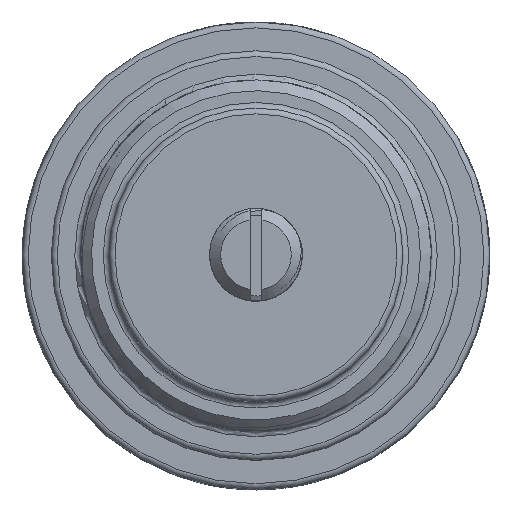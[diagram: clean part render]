
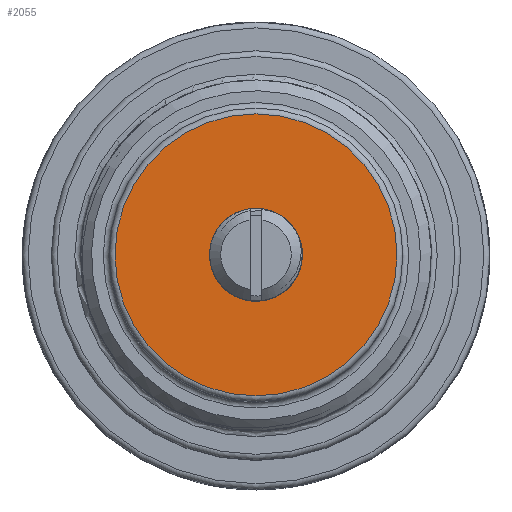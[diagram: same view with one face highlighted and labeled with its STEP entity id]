
A CAD part, top view. The second image highlights one B-rep face of the part: STEP entity #2055.
In plain terms, the highlighted planar face has unit normal (0, 0, 1).
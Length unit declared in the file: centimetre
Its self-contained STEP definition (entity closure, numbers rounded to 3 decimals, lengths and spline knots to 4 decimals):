
#40=FACE_BOUND('',#454,.T.);
#124=PLANE('',#2237);
#295=FACE_OUTER_BOUND('',#453,.T.);
#453=EDGE_LOOP('',(#1875));
#454=EDGE_LOOP('',(#1876,#1877,#1878,#1879));
#488=B_SPLINE_CURVE_WITH_KNOTS('',3,(#3598,#3599,#3600,#3601,#3602,#3603,
#3604,#3605,#3606,#3607),.UNSPECIFIED.,.F.,.F.,(4,3,3,4),(-0.7619,
-0.7346,-0.3808,0.),.UNSPECIFIED.);
#492=B_SPLINE_CURVE_WITH_KNOTS('',3,(#3879,#3880,#3881,#3882,#3883,#3884,
#3885,#3886,#3887,#3888),.UNSPECIFIED.,.F.,.F.,(4,3,3,4),(-0.7594,
-0.7278,-0.3507,0.),.UNSPECIFIED.);
#652=CIRCLE('',#2098,0.3372);
#653=CIRCLE('',#2100,0.3942);
#718=CIRCLE('',#2238,1.2);
#831=VERTEX_POINT('',#3481);
#832=VERTEX_POINT('',#3597);
#834=VERTEX_POINT('',#3652);
#836=VERTEX_POINT('',#3878);
#1000=VERTEX_POINT('',#20144);
#1049=EDGE_CURVE('',#832,#831,#488,.T.);
#1052=EDGE_CURVE('',#834,#832,#652,.T.);
#1055=EDGE_CURVE('',#836,#834,#492,.T.);
#1057=EDGE_CURVE('',#831,#836,#653,.F.);
#1299=EDGE_CURVE('',#1000,#1000,#718,.T.);
#1875=ORIENTED_EDGE('',*,*,#1299,.F.);
#1876=ORIENTED_EDGE('',*,*,#1057,.T.);
#1877=ORIENTED_EDGE('',*,*,#1055,.T.);
#1878=ORIENTED_EDGE('',*,*,#1052,.T.);
#1879=ORIENTED_EDGE('',*,*,#1049,.T.);
#2055=ADVANCED_FACE('',(#295,#40),#124,.F.);
#2098=AXIS2_PLACEMENT_3D('',#3653,#2328,#2329);
#2100=AXIS2_PLACEMENT_3D('',#4005,#2332,#2333);
#2237=AXIS2_PLACEMENT_3D('',#20143,#2632,#2633);
#2238=AXIS2_PLACEMENT_3D('',#20145,#2634,#2635);
#2328=DIRECTION('center_axis',(0.,0.,-1.));
#2329=DIRECTION('ref_axis',(-1.,0.,0.));
#2332=DIRECTION('center_axis',(0.,0.,1.));
#2333=DIRECTION('ref_axis',(-1.,0.,0.));
#2632=DIRECTION('center_axis',(0.,0.,-1.));
#2633=DIRECTION('ref_axis',(-1.,0.,0.));
#2634=DIRECTION('center_axis',(0.,0.,-1.));
#2635=DIRECTION('ref_axis',(-1.,0.,0.));
#3481=CARTESIAN_POINT('',(-0.2787,-0.2787,6.35));
#3597=CARTESIAN_POINT('',(0.3233,-0.0956,6.35));
#3598=CARTESIAN_POINT('Ctrl Pts',(0.3238,-0.0959,
6.35));
#3599=CARTESIAN_POINT('Ctrl Pts',(0.322,-0.1048,6.35));
#3600=CARTESIAN_POINT('Ctrl Pts',(0.3198,-0.1136,
6.35));
#3601=CARTESIAN_POINT('Ctrl Pts',(0.3173,-0.1222,
6.35));
#3602=CARTESIAN_POINT('Ctrl Pts',(0.2842,-0.2343,
6.35));
#3603=CARTESIAN_POINT('Ctrl Pts',(0.1879,-0.3266,
6.35));
#3604=CARTESIAN_POINT('Ctrl Pts',(0.0761,-0.3594,
6.35));
#3605=CARTESIAN_POINT('Ctrl Pts',(-0.0442,-0.3946,
6.35));
#3606=CARTESIAN_POINT('Ctrl Pts',(-0.1829,-0.362,
6.35));
#3607=CARTESIAN_POINT('Ctrl Pts',(-0.2787,-0.2787,
6.35));
#3652=CARTESIAN_POINT('',(0.161,0.2962,6.35));
#3653=CARTESIAN_POINT('Origin',(0.,0.,6.35));
#3878=CARTESIAN_POINT('',(-0.3942,0.,6.35));
#3879=CARTESIAN_POINT('Ctrl Pts',(-0.3948,0.0002,
6.35));
#3880=CARTESIAN_POINT('Ctrl Pts',(-0.3941,0.0107,
6.35));
#3881=CARTESIAN_POINT('Ctrl Pts',(-0.393,0.0211,
6.35));
#3882=CARTESIAN_POINT('Ctrl Pts',(-0.3914,0.0315,
6.35));
#3883=CARTESIAN_POINT('Ctrl Pts',(-0.3725,0.1553,
6.35));
#3884=CARTESIAN_POINT('Ctrl Pts',(-0.2875,0.2702,
6.35));
#3885=CARTESIAN_POINT('Ctrl Pts',(-0.1738,0.3211,
6.35));
#3886=CARTESIAN_POINT('Ctrl Pts',(-0.0681,0.3684,
6.35));
#3887=CARTESIAN_POINT('Ctrl Pts',(0.0632,0.3603,
6.35));
#3888=CARTESIAN_POINT('Ctrl Pts',(0.161,0.2962,6.35));
#4005=CARTESIAN_POINT('Origin',(0.,0.,6.35));
#20143=CARTESIAN_POINT('Origin',(0.,0.,6.35));
#20144=CARTESIAN_POINT('',(1.2,0.,6.35));
#20145=CARTESIAN_POINT('Origin',(0.,0.,6.35));
